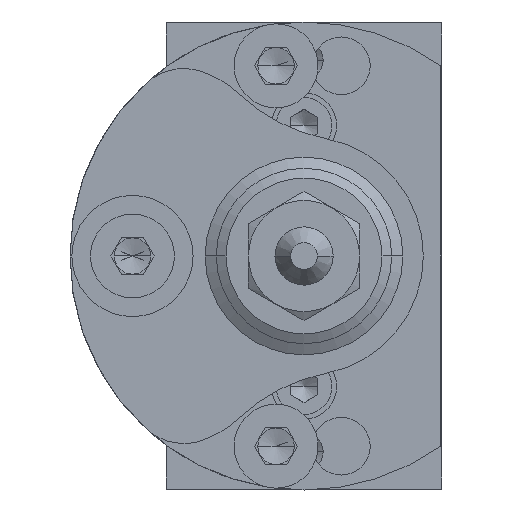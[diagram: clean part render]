
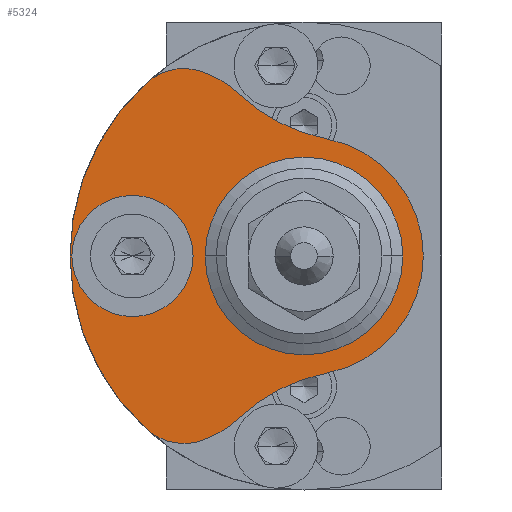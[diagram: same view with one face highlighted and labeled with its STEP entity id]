
A CAD part, front view. The second image highlights one B-rep face of the part: STEP entity #5324.
In plain terms, the highlighted planar face has unit normal (0, -1, 0).
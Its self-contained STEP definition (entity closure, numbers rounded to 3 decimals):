
#103 = DIRECTION ( 'NONE',  ( -1., 0., 0. ) ) ;
#178 = CARTESIAN_POINT ( 'NONE',  ( -5.3, -1.25, 0. ) ) ;
#250 = CARTESIAN_POINT ( 'NONE',  ( -3.459, -1.25, -8.675 ) ) ;
#309 = CARTESIAN_POINT ( 'NONE',  ( -6.439, -1.25, 7.053 ) ) ;
#345 = EDGE_CURVE ( 'NONE', #467, #8808, #5644, .T. ) ;
#378 = AXIS2_PLACEMENT_3D ( 'NONE', #9498, #7980, #7248 ) ;
#406 = VERTEX_POINT ( 'NONE', #2266 ) ;
#446 = EDGE_CURVE ( 'NONE', #8808, #8453, #8727, .T. ) ;
#467 = VERTEX_POINT ( 'NONE', #2377 ) ;
#537 = EDGE_CURVE ( 'NONE', #8453, #645, #1155, .T. ) ;
#560 = CARTESIAN_POINT ( 'NONE',  ( -8.461, -1.25, -9.269 ) ) ;
#645 = VERTEX_POINT ( 'NONE', #250 ) ;
#748 = PLANE ( 'NONE',  #6962 ) ;
#833 = VERTEX_POINT ( 'NONE', #2352 ) ;
#1036 = CIRCLE ( 'NONE', #9731, 3.25 ) ;
#1070 = ORIENTED_EDGE ( 'NONE', *, *, #6039, .F. ) ;
#1133 = ORIENTED_EDGE ( 'NONE', *, *, #2037, .F. ) ;
#1155 = CIRCLE ( 'NONE', #7103, 9.4 ) ;
#1205 = AXIS2_PLACEMENT_3D ( 'NONE', #309, #3367, #1367 ) ;
#1253 = ORIENTED_EDGE ( 'NONE', *, *, #8963, .F. ) ;
#1280 = CARTESIAN_POINT ( 'NONE',  ( -6.439, -1.25, -7.053 ) ) ;
#1367 = DIRECTION ( 'NONE',  ( -1., 0., 0. ) ) ;
#1554 = FACE_BOUND ( 'NONE', #2572, .T. ) ;
#1716 = DIRECTION ( 'NONE',  ( -1., 0., 0. ) ) ;
#1886 = CARTESIAN_POINT ( 'NONE',  ( -5.445, -1.25, 9.884 ) ) ;
#2037 = EDGE_CURVE ( 'NONE', #9655, #3987, #6012, .T. ) ;
#2142 = VERTEX_POINT ( 'NONE', #2833 ) ;
#2186 = ORIENTED_EDGE ( 'NONE', *, *, #3258, .F. ) ;
#2266 = CARTESIAN_POINT ( 'NONE',  ( -6.439, -1.25, -10.053 ) ) ;
#2299 = DIRECTION ( 'NONE',  ( 0., -1., 0. ) ) ;
#2352 = CARTESIAN_POINT ( 'NONE',  ( 5.3, -1.25, 0. ) ) ;
#2377 = CARTESIAN_POINT ( 'NONE',  ( -3.459, -1.25, 8.675 ) ) ;
#2405 = CARTESIAN_POINT ( 'NONE',  ( 1.211, -1.25, 6.284 ) ) ;
#2479 = EDGE_CURVE ( 'NONE', #3987, #4737, #3278, .T. ) ;
#2530 = DIRECTION ( 'NONE',  ( 1., 0., 0. ) ) ;
#2572 = EDGE_LOOP ( 'NONE', ( #7781, #3003 ) ) ;
#2833 = CARTESIAN_POINT ( 'NONE',  ( -9.2, -1.25, -3.25 ) ) ;
#2963 = CIRCLE ( 'NONE', #6507, 5.6 ) ;
#2976 = CARTESIAN_POINT ( 'NONE',  ( 2.989, -1.25, 15.515 ) ) ;
#3003 = ORIENTED_EDGE ( 'NONE', *, *, #4836, .F. ) ;
#3023 = CIRCLE ( 'NONE', #5270, 5.6 ) ;
#3065 = AXIS2_PLACEMENT_3D ( 'NONE', #2976, #6187, #7767 ) ;
#3124 = CIRCLE ( 'NONE', #6667, 3. ) ;
#3149 = DIRECTION ( 'NONE',  ( 0., 1., 0. ) ) ;
#3258 = EDGE_CURVE ( 'NONE', #3962, #406, #4904, .T. ) ;
#3270 = VERTEX_POINT ( 'NONE', #7951 ) ;
#3278 = CIRCLE ( 'NONE', #1205, 3. ) ;
#3367 = DIRECTION ( 'NONE',  ( 0., 1., 0. ) ) ;
#3421 = CIRCLE ( 'NONE', #378, 3.25 ) ;
#3711 = AXIS2_PLACEMENT_3D ( 'NONE', #7617, #6892, #103 ) ;
#3802 = DIRECTION ( 'NONE',  ( -1., 0., 0. ) ) ;
#3962 = VERTEX_POINT ( 'NONE', #9829 ) ;
#3987 = VERTEX_POINT ( 'NONE', #7459 ) ;
#3989 = DIRECTION ( 'NONE',  ( 0., 1., 0. ) ) ;
#4019 = DIRECTION ( 'NONE',  ( 0., -1., 0. ) ) ;
#4051 = DIRECTION ( 'NONE',  ( 0., 1., 0. ) ) ;
#4104 = CARTESIAN_POINT ( 'NONE',  ( -6.439, -1.25, -7.053 ) ) ;
#4337 = DIRECTION ( 'NONE',  ( 0., 1., 0. ) ) ;
#4423 = ORIENTED_EDGE ( 'NONE', *, *, #446, .F. ) ;
#4439 = CARTESIAN_POINT ( 'NONE',  ( -7.3, -1.25, 4.6 ) ) ;
#4737 = VERTEX_POINT ( 'NONE', #1886 ) ;
#4836 = EDGE_CURVE ( 'NONE', #8172, #2142, #1036, .T. ) ;
#4904 = CIRCLE ( 'NONE', #8951, 3. ) ;
#5094 = DIRECTION ( 'NONE',  ( 0., 1., 0. ) ) ;
#5111 = EDGE_LOOP ( 'NONE', ( #9788, #6069, #9849, #1133, #1070, #2186, #1253, #8261, #4423 ) ) ;
#5270 = AXIS2_PLACEMENT_3D ( 'NONE', #8823, #7394, #7288 ) ;
#5290 = DIRECTION ( 'NONE',  ( -1., 0., 0. ) ) ;
#5294 = DIRECTION ( 'NONE',  ( 1., 0., 0. ) ) ;
#5324 = ADVANCED_FACE ( 'NONE', ( #1554, #9225, #9327 ), #748, .T. ) ;
#5640 = EDGE_CURVE ( 'NONE', #833, #3270, #7140, .T. ) ;
#5644 = CIRCLE ( 'NONE', #3065, 9.4 ) ;
#5823 = CIRCLE ( 'NONE', #8740, 5.3 ) ;
#5986 = CARTESIAN_POINT ( 'NONE',  ( 0., -1.25, 0. ) ) ;
#6012 = CIRCLE ( 'NONE', #9253, 12.55 ) ;
#6026 = EDGE_CURVE ( 'NONE', #4737, #467, #2963, .T. ) ;
#6039 = EDGE_CURVE ( 'NONE', #406, #9655, #3124, .T. ) ;
#6069 = ORIENTED_EDGE ( 'NONE', *, *, #6026, .F. ) ;
#6153 = CARTESIAN_POINT ( 'NONE',  ( 0., -1.25, 0. ) ) ;
#6187 = DIRECTION ( 'NONE',  ( 0., -1., 0. ) ) ;
#6381 = CARTESIAN_POINT ( 'NONE',  ( 2.989, -1.25, -15.515 ) ) ;
#6507 = AXIS2_PLACEMENT_3D ( 'NONE', #4439, #5094, #5290 ) ;
#6576 = EDGE_LOOP ( 'NONE', ( #9910, #8601 ) ) ;
#6667 = AXIS2_PLACEMENT_3D ( 'NONE', #1280, #4337, #9148 ) ;
#6892 = DIRECTION ( 'NONE',  ( 0., 1., 0. ) ) ;
#6962 = AXIS2_PLACEMENT_3D ( 'NONE', #178, #2299, #3802 ) ;
#6969 = DIRECTION ( 'NONE',  ( -1., 0., 0. ) ) ;
#7103 = AXIS2_PLACEMENT_3D ( 'NONE', #6381, #4019, #1716 ) ;
#7140 = CIRCLE ( 'NONE', #7640, 5.3 ) ;
#7204 = DIRECTION ( 'NONE',  ( 0., 1., 0. ) ) ;
#7248 = DIRECTION ( 'NONE',  ( 1., 0., 0. ) ) ;
#7288 = DIRECTION ( 'NONE',  ( -1., 0., 0. ) ) ;
#7394 = DIRECTION ( 'NONE',  ( 0., 1., 0. ) ) ;
#7459 = CARTESIAN_POINT ( 'NONE',  ( -8.461, -1.25, 9.269 ) ) ;
#7617 = CARTESIAN_POINT ( 'NONE',  ( 0., -1.25, 0. ) ) ;
#7640 = AXIS2_PLACEMENT_3D ( 'NONE', #6153, #3989, #2530 ) ;
#7673 = EDGE_CURVE ( 'NONE', #3270, #833, #5823, .T. ) ;
#7767 = DIRECTION ( 'NONE',  ( -1., 0., 0. ) ) ;
#7781 = ORIENTED_EDGE ( 'NONE', *, *, #8396, .F. ) ;
#7951 = CARTESIAN_POINT ( 'NONE',  ( -5.3, -1.25, 0. ) ) ;
#7980 = DIRECTION ( 'NONE',  ( 0., -1., 0. ) ) ;
#8172 = VERTEX_POINT ( 'NONE', #8680 ) ;
#8261 = ORIENTED_EDGE ( 'NONE', *, *, #537, .F. ) ;
#8301 = CARTESIAN_POINT ( 'NONE',  ( -9.2, -1.25, 0. ) ) ;
#8396 = EDGE_CURVE ( 'NONE', #2142, #8172, #3421, .T. ) ;
#8398 = DIRECTION ( 'NONE',  ( 0., -1., 0. ) ) ;
#8453 = VERTEX_POINT ( 'NONE', #8726 ) ;
#8601 = ORIENTED_EDGE ( 'NONE', *, *, #7673, .T. ) ;
#8617 = DIRECTION ( 'NONE',  ( -1., 0., 0. ) ) ;
#8646 = DIRECTION ( 'NONE',  ( 1., 0., 0. ) ) ;
#8680 = CARTESIAN_POINT ( 'NONE',  ( -9.2, -1.25, 3.25 ) ) ;
#8726 = CARTESIAN_POINT ( 'NONE',  ( 1.211, -1.25, -6.284 ) ) ;
#8727 = CIRCLE ( 'NONE', #3711, 6.4 ) ;
#8730 = CARTESIAN_POINT ( 'NONE',  ( 0., -1.25, 0. ) ) ;
#8740 = AXIS2_PLACEMENT_3D ( 'NONE', #8730, #7204, #8646 ) ;
#8808 = VERTEX_POINT ( 'NONE', #2405 ) ;
#8823 = CARTESIAN_POINT ( 'NONE',  ( -7.3, -1.25, -4.6 ) ) ;
#8951 = AXIS2_PLACEMENT_3D ( 'NONE', #4104, #4051, #8617 ) ;
#8963 = EDGE_CURVE ( 'NONE', #645, #3962, #3023, .T. ) ;
#9148 = DIRECTION ( 'NONE',  ( -1., 0., 0. ) ) ;
#9225 = FACE_OUTER_BOUND ( 'NONE', #5111, .T. ) ;
#9253 = AXIS2_PLACEMENT_3D ( 'NONE', #5986, #3149, #6969 ) ;
#9327 = FACE_BOUND ( 'NONE', #6576, .T. ) ;
#9498 = CARTESIAN_POINT ( 'NONE',  ( -9.2, -1.25, 0. ) ) ;
#9655 = VERTEX_POINT ( 'NONE', #560 ) ;
#9731 = AXIS2_PLACEMENT_3D ( 'NONE', #8301, #8398, #5294 ) ;
#9788 = ORIENTED_EDGE ( 'NONE', *, *, #345, .F. ) ;
#9829 = CARTESIAN_POINT ( 'NONE',  ( -5.445, -1.25, -9.884 ) ) ;
#9849 = ORIENTED_EDGE ( 'NONE', *, *, #2479, .F. ) ;
#9910 = ORIENTED_EDGE ( 'NONE', *, *, #5640, .T. ) ;
